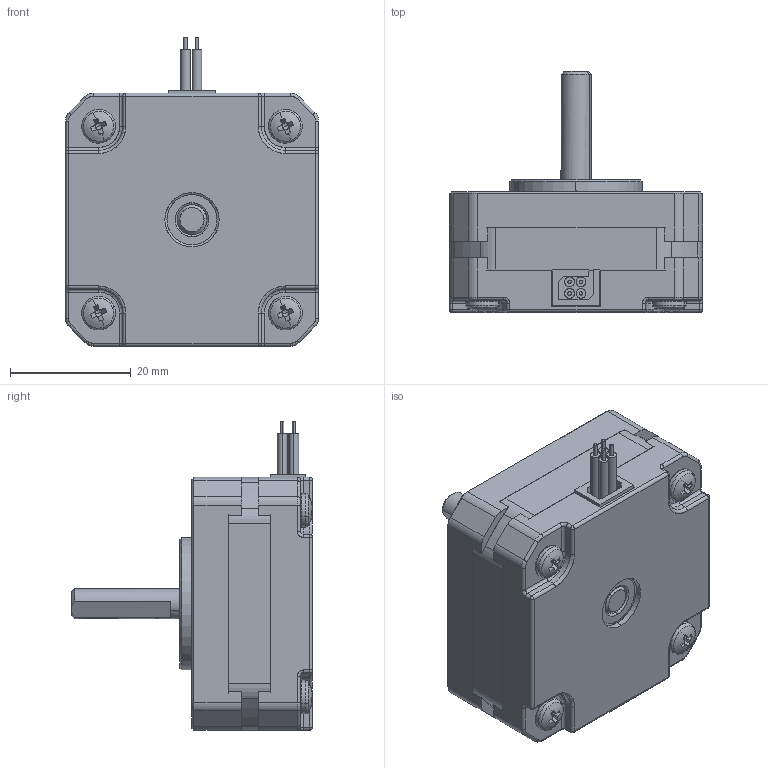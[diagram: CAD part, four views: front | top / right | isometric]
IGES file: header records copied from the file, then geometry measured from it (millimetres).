
Start section: SolidWorks IGES file using analytic representation for surfaces
Global section: file name: I:\3D_PRINTER\My_Projects\Nema_17\17HS08-1004S\17HS08-1004S.IGS; native system: SolidWorks 2013; preprocessor: SolidWorks 2013; author: Admin; date: 170319.161126; units: millimetre
Bounding box: 42 x 40 x 51.2 mm (x, y, z)
Surface area: 17647.5 mm2 (no closed solid volume)
Topology: 0 solids, 0 shells, 522 faces, 3950 edges, 3934 vertices
Faces by surface type: bspline 264, revolution 258
